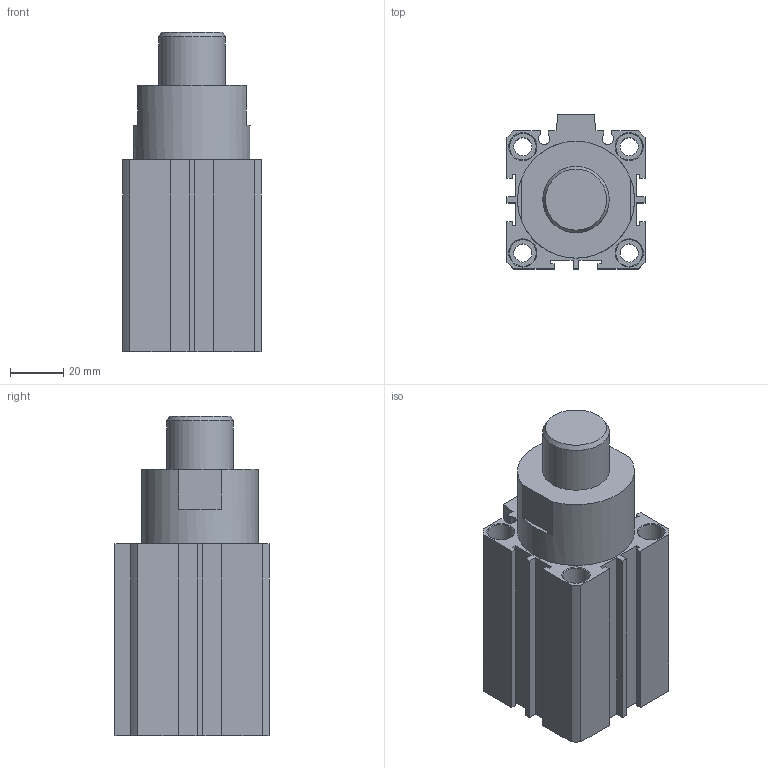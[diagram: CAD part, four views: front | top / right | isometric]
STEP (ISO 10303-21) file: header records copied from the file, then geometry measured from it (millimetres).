
FILE_DESCRIPTION((''),'2;1');
FILE_NAME('I:\3D電子目錄\氣缸\STB\STB\STB40\STB40x20.stp','2007-09-19T13:31:38',('Administrator'),(''),'Autodesk Inventor 11','Autodesk Inventor 11','');
FILE_SCHEMA(('AUTOMOTIVE_DESIGN { 1 0 10303 214 1 1 1 1 }'));
Length unit declared in the file: millimetre
Products named in the file (1): STB40
Bounding box: 52 x 58 x 120.2 mm (x, y, z)
Volume: 220081.8 mm3; surface area: 40496.2 mm2
Topology: 2 solids, 2 shells, 123 faces, 290 edges, 190 vertices
Faces by surface type: plane 76, cylinder 28, cone 15, bspline 3, torus 1
Full cylindrical faces by diameter (mm): 2.2 x2, 6.8 x4, 10 x8, 25 x1, 29 x1, 42 x2, 44 x2, 44.5 x2
Entity records: 3365 total; most frequent: CARTESIAN_POINT 616, DIRECTION 566, ORIENTED_EDGE 488, EDGE_CURVE 244, AXIS2_PLACEMENT_3D 201, EDGE_LOOP 192, VERTEX_POINT 184, VECTOR 164
